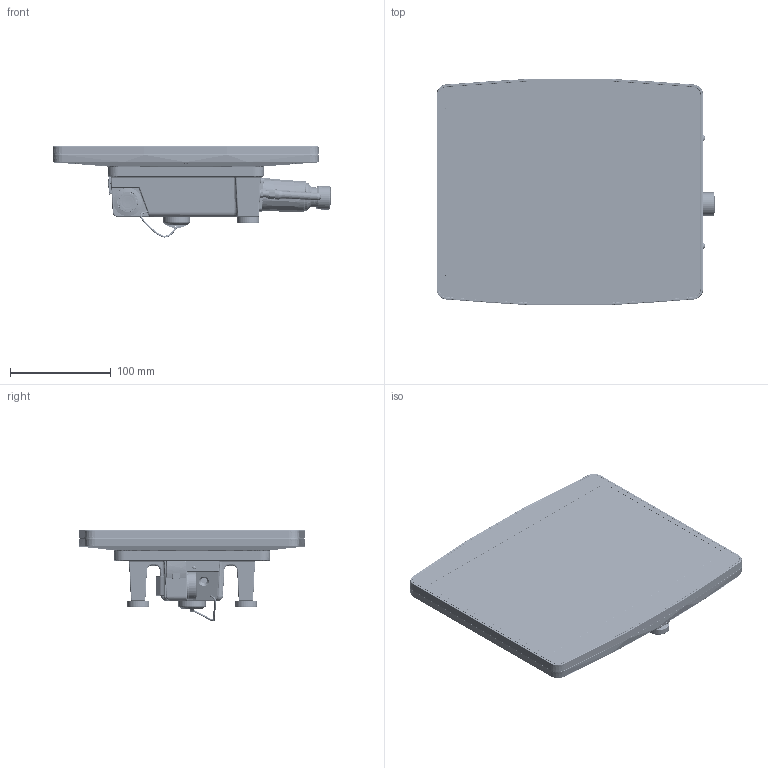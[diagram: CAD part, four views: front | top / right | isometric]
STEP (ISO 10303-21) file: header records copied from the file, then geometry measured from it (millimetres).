
FILE_DESCRIPTION (( 'STEP AP214' ), '1' );
FILE_NAME ('Daten f. Support HGW1033-3 12-246-1033-3.STEP', '2018-08-03T11:56:10', ( 'SIGMATEK GmbH & Co KG' ), ( 'SIGMATEK GmbH & Co KG' ), 'SwSTEP 2.0', 'SolidWorks 2017', '' );
FILE_SCHEMA (( 'AUTOMOTIVE_DESIGN' ));
Length unit declared in the file: millimetre
Products named in the file (39): HGW-KAB-04 ON-OFF Taster-Kabel HGW1033-3; Dummy Touch-Displaykombi (Ampire AM-1280800NNTZQW-T20H)_Daten f. Support; 135800 20170703_Support Daten; Dummy Cover Lens Touch-Displaykombi (Ampire AM-1280800NNTZQW-T20H_Daten f. Support; Dummy SCTLRF_representative_contact_Ohne Mutter; SMDREF_1_2_SMDREF_1_2; Zexxxx-4363-x5 Frontfolie o. Drehgeber HGW1033-3; 1020141024 7 Seg_dual_kcdc02_105_red; HGW-KAB-02 Schlüsselschalterkabel HGW1033-3_Daten f. Support; 1020141051 Kingbright APT2012VBC-D SMD LED 0805 BLAU ger; Daten f. Support HGW1033-3 12-246-1033-3; Dummy Lorlin Schl黶selschalter_SRL-5-K-S-2_mit Schl乻sel; 1020141004 SMD Led rot 170617; HGW-KAB-01 Zustimmtasterkabel HGW1033-3_Daten f. Support; 1020141038 HSMF-C165 SMD LED 0603 ROT-GR逴 ger (Avago); Zustimmtaster HE3B_M2PY; Resistor 0603 h0,5; HGW-KAB-00 Nothaltkabel HGW1033-3_Daten f. Support; HGT 10Zoll Rückteil m. LP_Daten f. Support; 7297771221 Not-Halt Taster beleuchtet (Schlegel FRVKDOO_R0) Nachgezeichnet; USB-Abdeckung 3030201646-2 (RAL7035 lichtgrau) 3030201647-2 (RAL7024 grafitgrau)_mit Stiftdichtung; Dummy Schnur f. Kappe Ladestecker; Zexxxx-4531-x5 Notauserhöhung 45 Spritzguss HBG-HGT; 4080225590 Kappe f. Mag. Buchse (M4Z003-000 Rosenberger); 3030202836-magnet22x6-M4; Zexxxx-4353-x2 Taster-Erhöhung HGW10XX; 3030301138 Flachkopfschraube ISO 7045 (DIN 7985) M2 x 6 Torx - 4.8 - TeclackA2F; 4080225591 Mag. Buchse (C003-17-200-C Rosenberger); 3030301075 PT-Senkkopfschraube WN1423 KA22x8 Torx; Dummy Antennen Sockel_Ohne Kabel; Three-Bond Propfen Wandhalterung; Dummy Federscheibe Antennensockel; 3030202676 Mentor Lichtleiter 12598 - LU PLP1-C- 6,4-G; Dummy Mutter Antennensockel; ZM1508-2459-10 Rueckwand HBG-HGT_ZExxxx-4156-x6 Gehеse R…kteil Nachar. HGW10XX (Pr. 07516); Dummy Antennensockel_Ohne Kabel; Mittelteil_10z_HBG-HGT_V2.0_Mittelteil 10z HBG-HGT RAL7024; 7717771042 Stabantenne mit RP-SMA 2.4 u. 5 GHz 50Ohm Abracon; ZM1337-2930-10 Front_10z_HBG-HGT_ZExxxx-4148-x7 Geh„use Front Nachar. HGW1033-3 (Pr. 07516)
Assembly tree (60 placements, depth 4):
  SMDREF_1_2_SMDREF_1_2
  Daten f. Support HGW1033-3 12-246-1033-3
    Zexxxx-4363-x5 Frontfolie o. Drehgeber HGW1033-3
    Dummy Touch-Displaykombi (Ampire AM-1280800NNTZQW-T20H)_Daten f. Support
      Dummy Cover Lens Touch-Displaykombi (Ampire AM-1280800NNTZQW-T20H_Daten f. Support
    ZM1337-2930-10 Front_10z_HBG-HGT_ZExxxx-4148-x7 Geh„use Front Nachar. HGW1033-3 (Pr. 07516)
    Mittelteil_10z_HBG-HGT_V2.0_Mittelteil 10z HBG-HGT RAL7024
    HGT 10Zoll Rückteil m. LP_Daten f. Support
      ZM1508-2459-10 Rueckwand HBG-HGT_ZExxxx-4156-x6 Gehеse R…kteil Nachar. HGW10XX (Pr. 07516)
      3030202676 Mentor Lichtleiter 12598 - LU PLP1-C- 6,4-G
      Three-Bond Propfen Wandhalterung  x4
      3030301075 PT-Senkkopfschraube WN1423 KA22x8 Torx  x6
      3030301138 Flachkopfschraube ISO 7045 (DIN 7985) M2 x 6 Torx - 4.8 - TeclackA2F  x4
      3030202836-magnet22x6-M4  x2
      Zexxxx-4531-x5 Notauserhöhung 45 Spritzguss HBG-HGT
      USB-Abdeckung 3030201646-2 (RAL7035 lichtgrau) 3030201647-2 (RAL7024 grafitgrau)_mit Stiftdichtung
      HGW-KAB-00 Nothaltkabel HGW1033-3_Daten f. Support
        7297771221 Not-Halt Taster beleuchtet (Schlegel FRVKDOO_R0) Nachgezeichnet
      HGW-KAB-01 Zustimmtasterkabel HGW1033-3_Daten f. Support
        Zustimmtaster HE3B_M2PY
      HGW-KAB-02 Schlüsselschalterkabel HGW1033-3_Daten f. Support
        Dummy Lorlin Schl黶selschalter_SRL-5-K-S-2_mit Schl乻sel
      HGW-KAB-04 ON-OFF Taster-Kabel HGW1033-3
        Dummy SCTLRF_representative_contact_Ohne Mutter
      7717771042 Stabantenne mit RP-SMA 2.4 u. 5 GHz 50Ohm Abracon  x2
      Dummy Antennen Sockel_Ohne Kabel  x2
        Dummy Antennensockel_Ohne Kabel
        Dummy Mutter Antennensockel
        Dummy Federscheibe Antennensockel
      4080225591 Mag. Buchse (C003-17-200-C Rosenberger)
      Zexxxx-4353-x2 Taster-Erhöhung HGW10XX
      4080225590 Kappe f. Mag. Buchse (M4Z003-000 Rosenberger)
      Dummy Schnur f. Kappe Ladestecker
    135800 20170703_Support Daten
      1020141038 HSMF-C165 SMD LED 0603 ROT-GR逴 ger (Avago)
      1020141004 SMD Led rot 170617
      1020141051 Kingbright APT2012VBC-D SMD LED 0805 BLAU ger
      1020141024 7 Seg_dual_kcdc02_105_red
    3030301075 PT-Senkkopfschraube WN1423 KA22x8 Torx  x10
  Resistor 0603 h0,5
Bounding box: 276.19 x 224.72 x 90.15 mm (x, y, z)
Volume: 419542.1 mm3; surface area: 417313.1 mm2
Topology: 68 solids, 68 shells, 10489 faces, 24837 edges, 14033 vertices
Faces by surface type: cylinder 2904, bspline 2746, plane 2472, torus 1142, cone 697, sphere 528
Entity records: 348871 total; most frequent: CARTESIAN_POINT 144515, ORIENTED_EDGE 43848, DIRECTION 38538, EDGE_CURVE 21924, AXIS2_PLACEMENT_3D 15523, VERTEX_POINT 12669, EDGE_LOOP 10043, ADVANCED_FACE 9606
